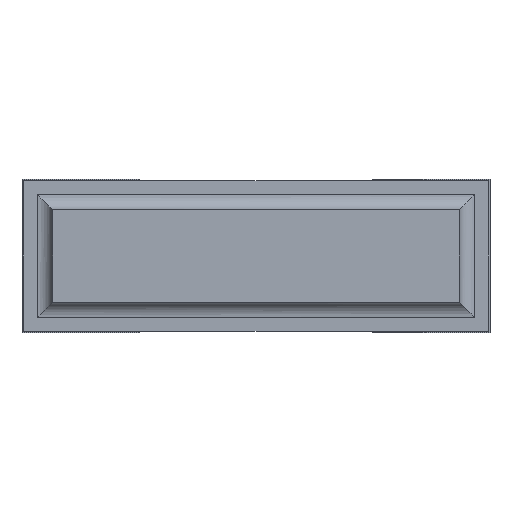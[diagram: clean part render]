
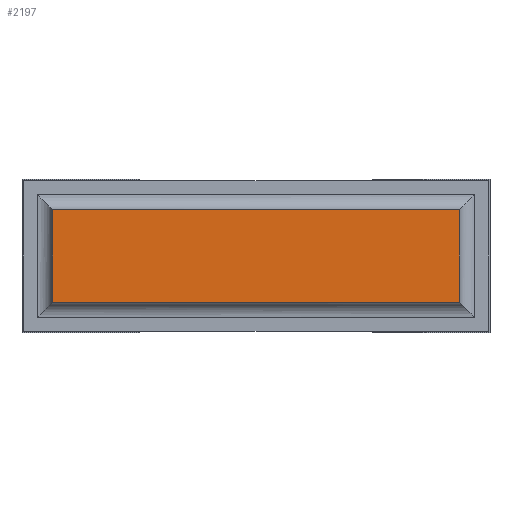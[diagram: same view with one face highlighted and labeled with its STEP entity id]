
A CAD part, front view. The second image highlights one B-rep face of the part: STEP entity #2197.
In plain terms, the highlighted planar face has unit normal (0, -1, 0).
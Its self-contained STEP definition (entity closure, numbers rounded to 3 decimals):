
#123=FACE_OUTER_BOUND('',#248,.T.);
#248=EDGE_LOOP('',(#1567,#1568,#1569,#1570));
#372=LINE('',#3172,#652);
#376=LINE('',#3182,#656);
#401=LINE('',#3234,#681);
#407=LINE('',#3250,#687);
#652=VECTOR('',#2556,10.);
#656=VECTOR('',#2566,10.);
#681=VECTOR('',#2611,10.);
#687=VECTOR('',#2633,10.);
#931=VERTEX_POINT('',#3169);
#932=VERTEX_POINT('',#3171);
#935=VERTEX_POINT('',#3181);
#952=VERTEX_POINT('',#3231);
#1150=EDGE_CURVE('',#932,#931,#372,.T.);
#1155=EDGE_CURVE('',#935,#932,#376,.T.);
#1182=EDGE_CURVE('',#952,#935,#401,.T.);
#1190=EDGE_CURVE('',#931,#952,#407,.T.);
#1567=ORIENTED_EDGE('',*,*,#1150,.T.);
#1568=ORIENTED_EDGE('',*,*,#1190,.T.);
#1569=ORIENTED_EDGE('',*,*,#1182,.T.);
#1570=ORIENTED_EDGE('',*,*,#1155,.T.);
#2088=PLANE('',#2361);
#2197=ADVANCED_FACE('',(#123),#2088,.T.);
#2361=AXIS2_PLACEMENT_3D('',#3253,#2638,#2639);
#2556=DIRECTION('',(0.,0.,-1.));
#2566=DIRECTION('',(-1.,0.,0.));
#2611=DIRECTION('',(0.,0.,1.));
#2633=DIRECTION('',(1.,0.,0.));
#2638=DIRECTION('center_axis',(0.,-1.,0.));
#2639=DIRECTION('ref_axis',(0.,0.,-1.));
#3169=CARTESIAN_POINT('',(0.1,0.,0.1));
#3171=CARTESIAN_POINT('',(0.1,0.,0.4));
#3172=CARTESIAN_POINT('',(0.1,0.,0.4));
#3181=CARTESIAN_POINT('',(1.42,0.,0.4));
#3182=CARTESIAN_POINT('',(1.42,0.,0.4));
#3231=CARTESIAN_POINT('',(1.42,0.,0.1));
#3234=CARTESIAN_POINT('',(1.42,0.,0.1));
#3250=CARTESIAN_POINT('',(0.1,0.,0.1));
#3253=CARTESIAN_POINT('Origin',(0.1,0.,0.25));
